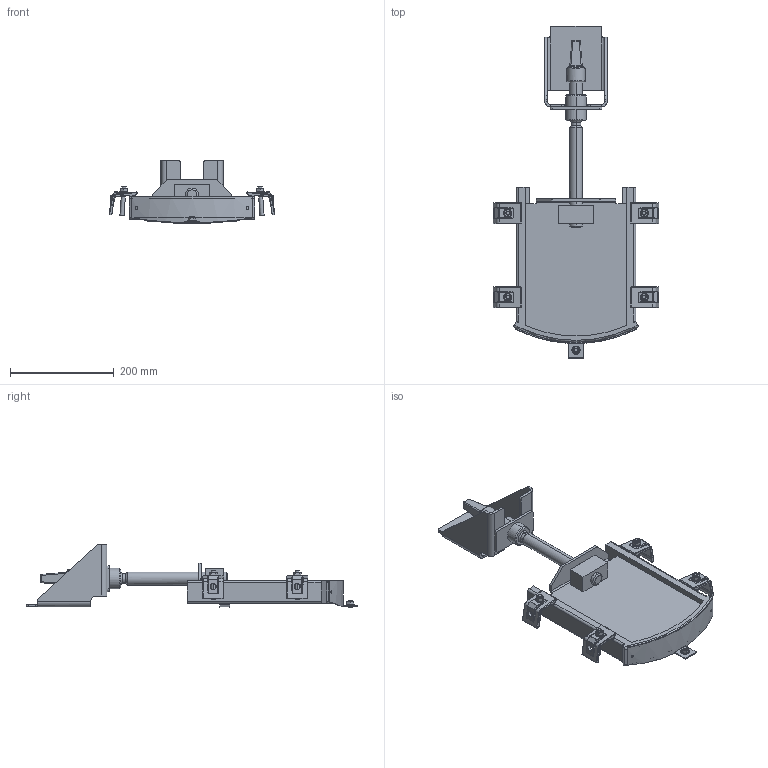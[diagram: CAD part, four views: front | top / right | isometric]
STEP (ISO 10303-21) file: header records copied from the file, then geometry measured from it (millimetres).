
FILE_DESCRIPTION (( 'STEP AP214' ), '1' );
FILE_NAME ('LW 150 Schacht1500 geschr..STEP', '2022-05-19T09:07:37', ( '' ), ( '' ), 'SwSTEP 2.0', 'SolidWorks 2021', '' );
FILE_SCHEMA (( 'AUTOMOTIVE_DESIGN' ));
Length unit declared in the file: millimetre
Products named in the file (1): LW 150 Schacht1500 geschr.
Bounding box: 319.64 x 640 x 122.86 mm (x, y, z)
Volume: 1537538.1 mm3; surface area: 426523.6 mm2
Topology: 1 solids, 5 shells, 854 faces, 2011 edges, 1141 vertices
Faces by surface type: cylinder 313, plane 281, cone 76, torus 64, sphere 60, bspline 60
Entity records: 36211 total; most frequent: CARTESIAN_POINT 8087, DIRECTION 4010, ORIENTED_EDGE 3902, EDGE_CURVE 1951, AXIS2_PLACEMENT_3D 1570, VERTEX_POINT 1133, EDGE_LOOP 906, VECTOR 870
